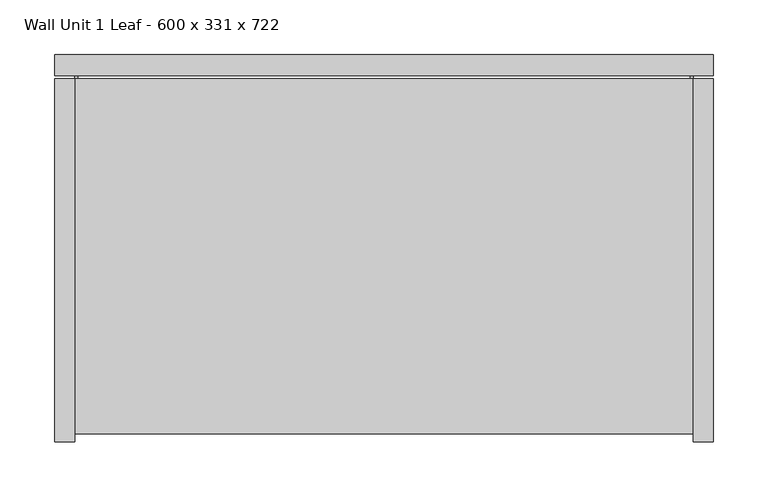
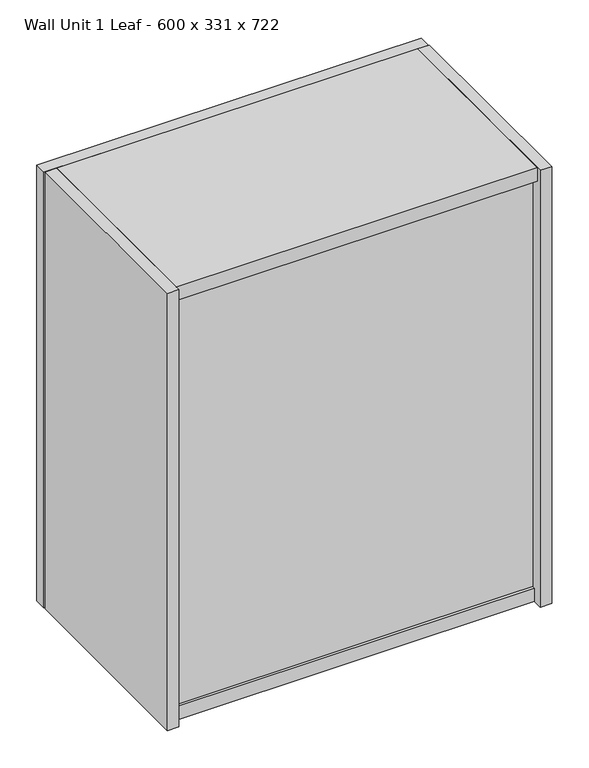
"""IFC4 building model written with IfcOpenShell, lengths in millimetres: furniture geometry, Furniture_Other-Furniture_Molteni&C_Prime_Wall-Unit-SP-1-Leaf_331mm : Wall Unit 1 Leaf - 600 x 331 x 722."""

from ifc_helpers import new_model, si_unit, frame, origin, origin_with_axes, place, context, project, spatial, polyline, circle_curve, outline, extrude, faceted_brep, source, transform, mapped, element, save
from ifc_brep_helpers import plane_surface, cylinder_surface, advanced_brep


def wall_unit_1_leaf_600_x_331_x_722_c22d5c6f(model_context):
    return source(origin(), model_context, "Body", "SolidModel", [
        advanced_brep(
        [(282.0, 143.5, 0.0), (282.0, 143.5, 15.0), (282.0, 165.5, 15.0), (282.0, 165.5, 16.0), (282.0, 165.5, 21.0), (282.0, 165.5, 22.0), (282.0, -137.5, 22.0), (282.0, -137.5, 17.0), (282.0, -145.5, 17.0), (282.0, -145.5, 22.0), (282.0, -150.0, 22.0), (282.0, -150.0, 0.0), (-282.0, 143.5, 0.0), (-282.0, -150.0, 0.0), (-282.0, -150.0, 22.0), (-282.0, -145.5, 22.0), (-282.0, -145.5, 17.0), (-282.0, -137.5, 17.0), (-282.0, -137.5, 22.0), (-282.0, 165.5, 22.0), (-282.0, 165.5, 21.0), (-282.0, 165.5, 16.0), (-282.0, 165.5, 15.0), (-282.0, 143.5, 15.0), (279.0123099, 165.5, 21.0), (279.0123099, 165.5, 16.0), (-279.1557889, 165.5, 16.0), (-279.1557889, 165.5, 21.0)],
        [
            (0, 1),
            (1, 2),
            (2, 3),
            (3, 4, circle_curve(frame((282.0, 165.5, 18.5), z_axis=(1.0, 0.0, 0.0), x_axis=(0.0, -1.0, 0.0)), 2.5)),
            (4, 5),
            (5, 6),
            (6, 7),
            (7, 8),
            (8, 9),
            (9, 10),
            (10, 11),
            (11, 0),
            (12, 13),
            (13, 14),
            (14, 15),
            (15, 16),
            (16, 17),
            (17, 18),
            (18, 19),
            (19, 20),
            (20, 21, circle_curve(frame((-282.0, 165.5, 18.5), z_axis=(-1.0, 0.0, 0.0), x_axis=(0.0, -1.0, 0.0)), 2.5)),
            (21, 22),
            (22, 23),
            (23, 12),
            (11, 13),
            (12, 0),
            (10, 14),
            (9, 15),
            (8, 16),
            (7, 17),
            (6, 18),
            (5, 19),
            (4, 24),
            (24, 25),
            (25, 3),
            (2, 22),
            (21, 26),
            (26, 27),
            (27, 20),
            (1, 23),
            (26, 27, circle_curve(frame((-279.1557889, 165.5, 18.5), z_axis=(1.0, 0.0, 0.0), x_axis=(0.0, -1.0, 0.0)), 2.5)),
            (24, 25, circle_curve(frame((279.0123099, 165.5, 18.5), z_axis=(-1.0, 0.0, 0.0), x_axis=(0.0, -1.0, 0.0)), 2.5)),
        ],
        [
            plane_surface(frame((282.0, -150.0, 0.0), z_axis=(1.0, 0.0, 0.0), x_axis=(0.0, -1.0, 0.0))),
            plane_surface(frame((-282.0, -150.0, 0.0), z_axis=(-1.0, 0.0, 0.0), x_axis=(0.0, 1.0, 0.0))),
            plane_surface(frame((282.0, 143.5, 0.0), z_axis=(0.0, 0.0, -1.0), x_axis=(-1.0, 0.0, 0.0))),
            plane_surface(frame((282.0, -150.0, 0.0), z_axis=(0.0, -1.0, 0.0), x_axis=(-1.0, 0.0, 0.0))),
            plane_surface(frame((282.0, -150.0, 22.0), z_axis=(0.0, 0.0, 1.0), x_axis=(-1.0, 0.0, 0.0))),
            plane_surface(frame((282.0, -145.5, 22.0), z_axis=(0.0, 1.0, 0.0), x_axis=(-1.0, 0.0, 0.0))),
            plane_surface(frame((282.0, -145.5, 17.0), z_axis=(0.0, 0.0, 1.0), x_axis=(-1.0, 0.0, 0.0))),
            plane_surface(frame((282.0, -137.5, 17.0), z_axis=(0.0, -1.0, 0.0), x_axis=(-1.0, 0.0, 0.0))),
            plane_surface(frame((282.0, -137.5, 22.0), z_axis=(0.0, 0.0, 1.0), x_axis=(-1.0, 0.0, 0.0))),
            plane_surface(frame((282.0, 165.5, 22.0), z_axis=(0.0, 1.0, 0.0), x_axis=(-1.0, 0.0, 0.0))),
            plane_surface(frame((282.0, 165.5, 15.0), z_axis=(0.0, 0.0, -1.0), x_axis=(-1.0, 0.0, 0.0))),
            plane_surface(frame((282.0, 143.5, 15.0), z_axis=(0.0, 1.0, 0.0), x_axis=(-1.0, 0.0, 0.0))),
            plane_surface(frame((-279.1557889, 165.5, 16.0), z_axis=(1.0, 0.0, 0.0), x_axis=(0.0, 0.0, 1.0))),
            cylinder_surface(frame((-282.0, 165.5, 18.5), z_axis=(1.0, 0.0, 0.0), x_axis=(0.0, -1.0, 0.0)), 2.5),
            plane_surface(frame((279.0123099, 163.0, 18.5), z_axis=(-1.0, 0.0, 0.0), x_axis=(0.0, 0.0, -1.0))),
            cylinder_surface(frame((282.0, 165.5, 18.5), z_axis=(-1.0, 0.0, 0.0), x_axis=(0.0, -1.0, 0.0)), 2.5),
        ],
        [
            (0, [[1, 2, 3, 4, 5, 6, 7, 8, 9, 10, 11, 12]]),
            (1, [[13, 14, 15, 16, 17, 18, 19, 20, 21, 22, 23, 24]]),
            (2, [[25, -13, 26, -12]]),
            (3, [[27, -14, -25, -11]]),
            (4, [[28, -15, -27, -10]]),
            (5, [[29, -16, -28, -9]]),
            (6, [[30, -17, -29, -8]]),
            (7, [[31, -18, -30, -7]]),
            (8, [[32, -19, -31, -6]]),
            (9, [[-5, 33, 34, 35, -3, 36, -22, 37, 38, 39, -20, -32]]),
            (10, [[40, -23, -36, -2]]),
            (11, [[-26, -24, -40, -1]]),
            (12, [[-38, 41]]),
            (13, [[-37, -21, -39, -41]]),
            (14, [[-34, 42]]),
            (15, [[-35, -42, -33, -4]]),
        ],
    ),
        faceted_brep([(-300.0, 165.5, 722.0), (-300.0, -165.5, 722.0), (-282.0, -165.5, 722.0), (-282.0, 165.5, 722.0), (-300.0, 165.5, 0.0), (-282.0, 165.5, 0.0), (-282.0, -165.5, 0.0), (-300.0, -165.5, 0.0), (-282.0, -137.5, 17.0), (-282.0, -145.5, 17.0), (-282.0, -145.5, 704.0), (-282.0, -137.5, 704.0), (300.0, 165.5, 722.0), (282.0, 165.5, 722.0), (282.0, -165.5, 722.0), (300.0, -165.5, 722.0), (300.0, 165.5, 0.0), (300.0, -165.5, 0.0), (282.0, -165.5, 0.0), (282.0, 165.5, 0.0), (282.0, -137.5, 704.0), (282.0, -145.5, 704.0), (282.0, -145.5, 17.0), (282.0, -137.5, 17.0)], [[[0, 1, 2, 3]], [[4, 5, 6, 7]], [[3, 5, 4, 0]], [[2, 6, 5, 3], [8, 9, 10, 11]], [[1, 7, 6, 2]], [[0, 4, 7, 1]], [[12, 13, 14, 15]], [[16, 17, 18, 19]], [[12, 16, 19, 13]], [[13, 19, 18, 14], [20, 21, 22, 23]], [[14, 18, 17, 15]], [[15, 17, 16, 12]], [[20, 23, 8, 11]], [[23, 22, 9, 8]], [[22, 21, 10, 9]], [[11, 10, 21, 20]]]),
        extrude(outline(polyline([(282.0, -137.5), (-282.0, -137.5), (-282.0, 165.5), (282.0, 165.5), (282.0, -137.5)])), frame((0.0, 0.0, 350.0), z_axis=(0.0, 0.0, 1.0), x_axis=(1.0, 0.0, 0.0)), (0.0, 0.0, 1.0), 22.0),
        extrude(outline(polyline([(165.5, 722.0), (165.5, 700.0), (-137.5, 700.0), (-137.5, 704.0), (-145.5, 704.0), (-145.5, 700.0), (-158.5, 700.0), (-158.5, 722.0), (165.5, 722.0)])), frame((-282.0, 0.0, 0.0), z_axis=(1.0, 0.0, 0.0), x_axis=(0.0, 1.0, 0.0)), (0.0, 0.0, 1.0), 564.0),
        extrude(outline(polyline([(-0.3822432, 187.5), (300.0, 187.5), (300.0, 168.5), (-1.6098784, 168.5), (-300.0, 168.5), (-300.0, 187.5), (-0.3822432, 187.5)])), origin_with_axes(), (0.0, 0.0, 1.0), 719.9973284),
    ])


if __name__ == "__main__":
    model = new_model("IFC4")
    model_context = context("Model", 3, world=origin())
    ifc_project = project(units=[si_unit("LENGTHUNIT", "METRE", prefix="MILLI")], contexts=[model_context])
    site = spatial("IfcSite", under=ifc_project)
    building = spatial("IfcBuilding", under=site)
    placement = place(None, origin())
    wall_unit_1_leaf_600_x_331_x_722_shape = wall_unit_1_leaf_600_x_331_x_722_c22d5c6f(model_context)
    element("IfcFurniture", 1, ObjectType="Furniture_Other-Furniture_Molteni&C_Prime_Wall-Unit-SP-1-Leaf_331mm : Wall Unit 1 Leaf - 600 x 331 x 722", at=placement, inside=building, context=model_context, shape_type="MappedRepresentation", body=[
        mapped(wall_unit_1_leaf_600_x_331_x_722_shape, transform((0.0, 0.0, 0.0), x_axis=(1.0, 0.0, 0.0), y_axis=(0.0, 1.0, 0.0), z_axis=(0.0, 0.0, 1.0))),
    ])
    save(model, "model.ifc")
